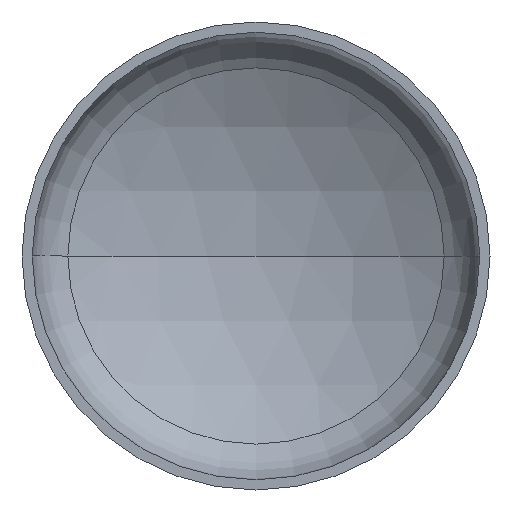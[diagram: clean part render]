
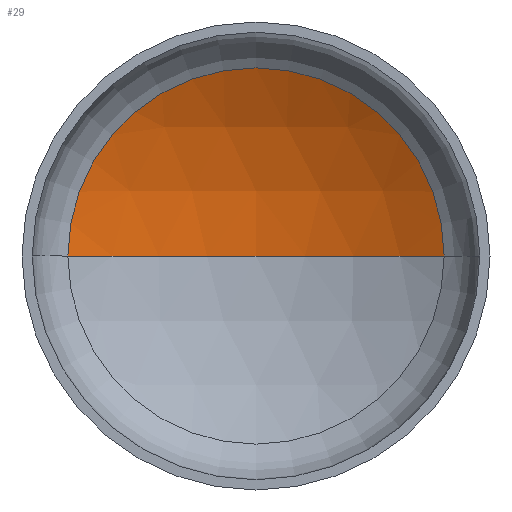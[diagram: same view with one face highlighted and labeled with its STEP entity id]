
A CAD part, front view. The second image highlights one B-rep face of the part: STEP entity #29.
In plain terms, the highlighted spherical face has radius 2560 mm.
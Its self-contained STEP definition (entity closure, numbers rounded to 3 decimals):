
#8 = AXIS2_PLACEMENT_3D ( 'NONE', #139, #101, #144 ) ;
#17 = CARTESIAN_POINT ( 'NONE',  ( 0., 543.667, 0. ) ) ;
#28 = EDGE_LOOP ( 'NONE', ( #154, #117, #30 ) ) ;
#29 = ADVANCED_FACE ( 'NONE', ( #179 ), #274, .F. ) ;
#30 = ORIENTED_EDGE ( 'NONE', *, *, #128, .T. ) ;
#38 = AXIS2_PLACEMENT_3D ( 'NONE', #17, #399, #360 ) ;
#40 = AXIS2_PLACEMENT_3D ( 'NONE', #267, #266, #283 ) ;
#61 = VERTEX_POINT ( 'NONE', #289 ) ;
#64 = AXIS2_PLACEMENT_3D ( 'NONE', #296, #264, #288 ) ;
#101 = DIRECTION ( 'NONE',  ( 0., 0., 1. ) ) ;
#117 = ORIENTED_EDGE ( 'NONE', *, *, #166, .T. ) ;
#128 = EDGE_CURVE ( 'NONE', #156, #61, #363, .T. ) ;
#134 = VERTEX_POINT ( 'NONE', #252 ) ;
#139 = CARTESIAN_POINT ( 'NONE',  ( 0., -1669.777, 0. ) ) ;
#144 = DIRECTION ( 'NONE',  ( 1., 0., 0. ) ) ;
#154 = ORIENTED_EDGE ( 'NONE', *, *, #358, .F. ) ;
#156 = VERTEX_POINT ( 'NONE', #160 ) ;
#160 = CARTESIAN_POINT ( 'NONE',  ( 1286.184, 543.667, 0. ) ) ;
#166 = EDGE_CURVE ( 'NONE', #134, #156, #182, .T. ) ;
#179 = FACE_OUTER_BOUND ( 'NONE', #28, .T. ) ;
#182 = CIRCLE ( 'NONE', #40, 2560. ) ;
#252 = CARTESIAN_POINT ( 'NONE',  ( 0., 890.223, 0. ) ) ;
#264 = DIRECTION ( 'NONE',  ( 0., 0., -1. ) ) ;
#266 = DIRECTION ( 'NONE',  ( 0., 0., -1. ) ) ;
#267 = CARTESIAN_POINT ( 'NONE',  ( 0., -1669.777, 0. ) ) ;
#274 = SPHERICAL_SURFACE ( 'NONE', #64, 2560. ) ;
#283 = DIRECTION ( 'NONE',  ( -1., 0., 0. ) ) ;
#288 = DIRECTION ( 'NONE',  ( -1., 0., 0. ) ) ;
#289 = CARTESIAN_POINT ( 'NONE',  ( -1286.184, 543.667, 0. ) ) ;
#296 = CARTESIAN_POINT ( 'NONE',  ( 0., -1669.777, 0. ) ) ;
#326 = CIRCLE ( 'NONE', #8, 2560. ) ;
#358 = EDGE_CURVE ( 'NONE', #134, #61, #326, .T. ) ;
#360 = DIRECTION ( 'NONE',  ( 1., 0., 0. ) ) ;
#363 = CIRCLE ( 'NONE', #38, 1286.184 ) ;
#399 = DIRECTION ( 'NONE',  ( 0., -1., 0. ) ) ;
